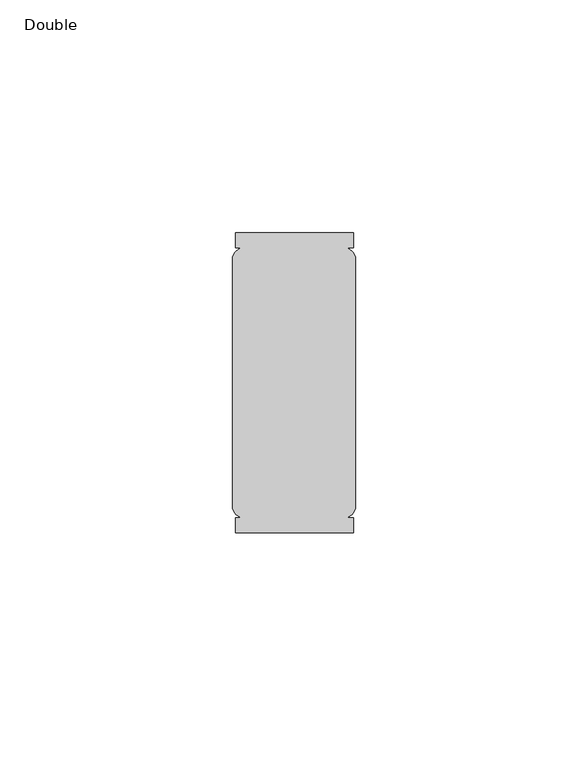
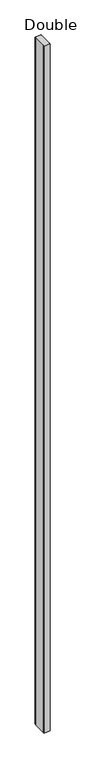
"""IFC4 building model written with IfcOpenShell, lengths in millimetres: furniture geometry, Post-Teknion-FHCPA-Vertical_Post_Package-R2022rfa : Double."""

from ifc_helpers import new_model, si_unit, point, frame, frame_2d, origin, place, context, project, spatial, polyline, circle_curve, trimmed, segment, composite_curve, outline, extrude, source, transform, mapped, element, save


def double_6c06986d(model_context):
    return source(origin(), model_context, "Body", "SweptSolid", [
        extrude(outline(composite_curve([segment(trimmed(circle_curve(frame_2d((-10.5835219, 21.8354858)), 2.794), [point((-13.2844361, 22.5506771))], [point((-11.2987132, 24.5364))], False, "CARTESIAN"), True, "CONTINUOUS"), segment(polyline([(-11.2987132, 24.5364), (-12.7, 24.5364), (-12.7, 27.7114), (12.7, 27.7114), (12.7, 24.5364), (11.0532868, 24.5364)]), True, "CONTINUOUS"), segment(trimmed(circle_curve(frame_2d((10.3380955, 21.8354858)), 2.794), [point((11.0532868, 24.5364))], [point((13.0390096, 22.5506771))], False, "CARTESIAN"), True, "CONTINUOUS"), segment(polyline([(13.0390096, 22.5506771), (13.0390096, -31.4914771)]), True, "CONTINUOUS"), segment(trimmed(circle_curve(frame_2d((10.3380955, -30.7762858)), 2.794), [point((13.0390096, -31.4914771))], [point((11.0532868, -33.4772))], False, "CARTESIAN"), True, "CONTINUOUS"), segment(polyline([(11.0532868, -33.4772), (12.7, -33.4772), (12.7, -36.6522), (-12.7, -36.6522), (-12.7, -33.4772), (-11.2987132, -33.4772)]), True, "CONTINUOUS"), segment(trimmed(circle_curve(frame_2d((-10.5835219, -30.7762858)), 2.794), [point((-11.2987132, -33.4772))], [point((-13.2844361, -31.4914771))], False, "CARTESIAN"), True, "CONTINUOUS"), segment(polyline([(-13.2844361, -31.4914771), (-13.2844361, 22.5506771)]), True, "CONTINUOUS")], self_intersect=False)), frame((0.0, 0.0, 29.718), z_axis=(0.0, 0.0, 1.0), x_axis=(1.0, 0.0, 0.0)), (0.0, 0.0, 1.0), 2958.735199),
    ])


if __name__ == "__main__":
    model = new_model("IFC4")
    model_context = context("Model", 3, world=origin())
    ifc_project = project(units=[si_unit("LENGTHUNIT", "METRE", prefix="MILLI")], contexts=[model_context])
    site = spatial("IfcSite", under=ifc_project)
    building = spatial("IfcBuilding", under=site)
    placement = place(None, origin())
    double_shape = double_6c06986d(model_context)
    element("IfcFurniture", 1, ObjectType="Post-Teknion-FHCPA-Vertical_Post_Package-R2022rfa : Double", at=placement, inside=building, context=model_context, shape_type="MappedRepresentation", body=[
        mapped(double_shape, transform((0.0, 0.0, 0.0), x_axis=(1.0, 0.0, 0.0), y_axis=(0.0, 1.0, 0.0), z_axis=(0.0, 0.0, 1.0))),
    ])
    save(model, "model.ifc")
